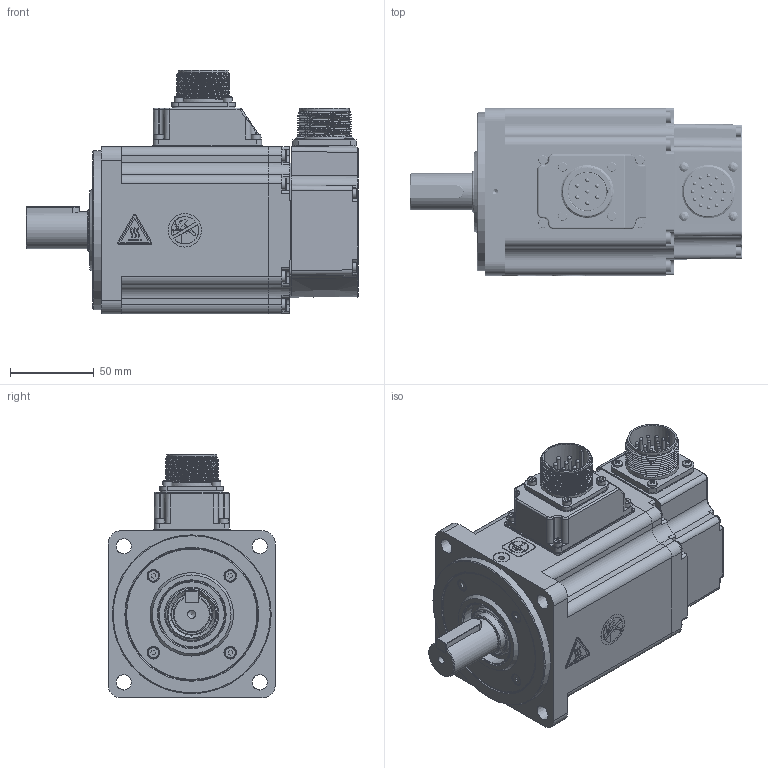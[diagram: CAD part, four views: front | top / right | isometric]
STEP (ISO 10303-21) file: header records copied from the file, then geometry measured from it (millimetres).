
FILE_DESCRIPTION( ( 'Unknown' ), '1' );
FILE_NAME( 'X:/05_Progetto TCE/010-TCE motor drawings/TCE100/vuoti/TCE100 4A XX 3 A2 0 C3.stp', 'Unknown', ( 'Unknown' ), ( 'Unknown' ), 'PSStep 17.0.49', 'Unknown', ' ' );
FILE_SCHEMA( ( 'AUTOMOTIVE_DESIGN { 1 0 10303 214 1 1 1 1 }' ) );
Length unit declared in the file: millimetre
Products named in the file (52): back cover TCE100 + CN MIL; 003303000373; 003108015154; 005911000525; 005911000525-oa3; 005911000525-oa4; 005911000525-oa5; 001107000620; U5140003 vuoto; 005911000150; 003799000580; 005911000201; 005117001750; 003120002502; 003303000370; 003108002568_90°; Assem1; 005911000430; 003155000301; 003103001501; 005911000414; 005204000002; 005911000493; 005204000003; 003251022001; 005008000690-oa0; 005008000690-oa1; 005204000001; 005123000420; 005123000500; 005008000742-oa2; 005119000312; 005113000596; 003003050002
Assembly tree (75 placements, depth 3):
  Assem1
    005911000430  x8
    003155000301
    003103001501
    005911000414  x8
    005204000002
    005911000493  x4
    005204000003
    003251022001
    005008000690-oa0
    005008000690-oa1
    005204000001
    005123000420
    005123000420
    005123000420
    005123000420
    005123000420
    005123000420
    005123000420
    005123000500
    005123000500
    005123000500
    005123000500
    005123000500
    005123000500
    005123000500
    005123000500
    005123000500
    005008000742-oa2
    005119000312
    005119000312
    005113000596
    003003050002
    back cover TCE100 + CN MIL
      003303000373
      003108015154
      005911000525
      005911000525-oa3
      005911000525-oa4
      005911000525-oa5
      001107000620
    U5140003 vuoto
      005911000150
      003799000580
      005911000201  x8
      003303000373
      005117001750
      005117001750
      003120002502
      003120002502
      003303000370
      003108002568_90°
Bounding box: 198.5 x 100.3 x 145.8 mm (x, y, z)
Volume: 632018.9 mm3; surface area: 285215.2 mm2
Topology: 73 solids, 83 shells, 2999 faces, 7440 edges, 4791 vertices
Faces by surface type: plane 1531, cylinder 704, extrusion 233, cone 172, torus 150, bspline 107, sphere 102
Full cylindrical faces by diameter (mm): 2 x35, 2.224 x1, 2.4 x8, 2.459 x24, 2.5 x1, 2.6 x1, 2.8 x7, 2.9 x4, 3 x30, 3.048 x4, 3.2 x5, 3.242 x35, 3.5 x13, 3.6 x1, 3.7 x8, 3.8 x2, 4 x29, 4.5 x12, 4.7 x11, 4.917 x1, 5.1 x1, 5.5 x26, 5.6 x4, 5.8 x6, 7 x16, 7.5 x4, 8 x4, 10 x1, 11 x1, 12 x1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
Entity records: 114068 total; most frequent: CARTESIAN_POINT 33809, ORIENTED_EDGE 11684, DIRECTION 11613, EDGE_CURVE 5842, VERTEX_POINT 4114, AXIS2_PLACEMENT_3D 4051, EDGE_LOOP 3527, VECTOR 3511
